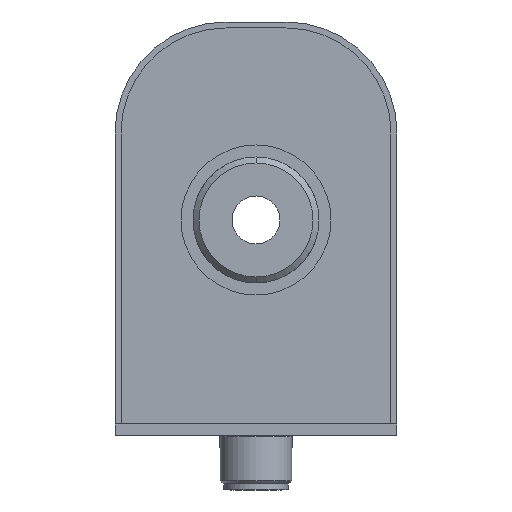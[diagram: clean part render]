
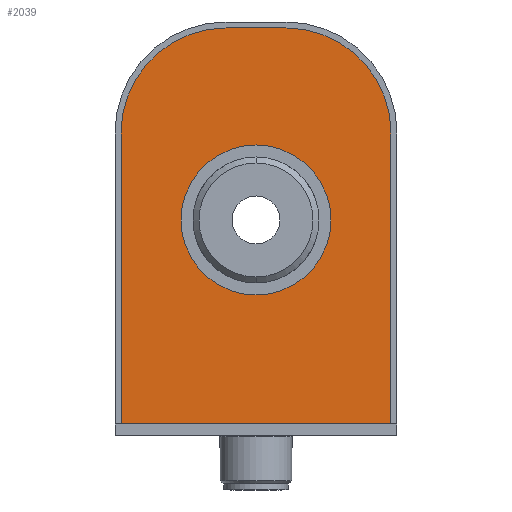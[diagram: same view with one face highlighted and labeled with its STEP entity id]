
A CAD part, left-side view. The second image highlights one B-rep face of the part: STEP entity #2039.
In plain terms, the highlighted planar face has unit normal (-1, 0, 0) as drawn and (0, 0, -1) by its records, which use the part's own axes.
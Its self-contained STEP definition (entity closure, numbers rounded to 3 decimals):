
#256 = ORIENTED_EDGE ( 'NONE', *, *, #10329, .F. ) ;
#454 = CIRCLE ( 'NONE', #10488, 17.5 ) ;
#655 = CIRCLE ( 'NONE', #4118, 17.5 ) ;
#981 = CARTESIAN_POINT ( 'NONE',  ( 27.5, 17.5, 0. ) ) ;
#1056 = VECTOR ( 'NONE', #13893, 1000. ) ;
#1190 = VECTOR ( 'NONE', #4458, 1000. ) ;
#1231 = VERTEX_POINT ( 'NONE', #2913 ) ;
#1350 = VERTEX_POINT ( 'NONE', #12054 ) ;
#1458 = CARTESIAN_POINT ( 'NONE',  ( 0., 17.5, 0. ) ) ;
#1464 = DIRECTION ( 'NONE',  ( 0., 0., 1. ) ) ;
#1582 = EDGE_CURVE ( 'NONE', #11477, #13532, #13164, .T. ) ;
#1717 = EDGE_CURVE ( 'NONE', #1350, #4396, #5385, .T. ) ;
#1816 = LINE ( 'NONE', #2041, #1056 ) ;
#1929 = DIRECTION ( 'NONE',  ( 1., 0., 0. ) ) ;
#2039 = ADVANCED_FACE ( 'NONE', ( #11118, #4438 ), #8533, .F. ) ;
#2041 = CARTESIAN_POINT ( 'NONE',  ( 27.5, 66., 0. ) ) ;
#2913 = CARTESIAN_POINT ( 'NONE',  ( -6.85, 32., 0. ) ) ;
#3817 = DIRECTION ( 'NONE',  ( 0., 0., 1. ) ) ;
#4082 = VECTOR ( 'NONE', #1929, 1000. ) ;
#4118 = AXIS2_PLACEMENT_3D ( 'NONE', #7000, #15259, #8160 ) ;
#4222 = EDGE_CURVE ( 'NONE', #13780, #12765, #13438, .T. ) ;
#4396 = VERTEX_POINT ( 'NONE', #11862 ) ;
#4438 = FACE_BOUND ( 'NONE', #7870, .T. ) ;
#4458 = DIRECTION ( 'NONE',  ( 0., -1., 0. ) ) ;
#4567 = DIRECTION ( 'NONE',  ( 0., 1., 0. ) ) ;
#5018 = VECTOR ( 'NONE', #4567, 1000. ) ;
#5098 = ORIENTED_EDGE ( 'NONE', *, *, #4222, .F. ) ;
#5275 = DIRECTION ( 'NONE',  ( 0., 0., 1. ) ) ;
#5385 = LINE ( 'NONE', #981, #5018 ) ;
#5421 = EDGE_CURVE ( 'NONE', #7763, #1231, #9280, .T. ) ;
#6516 = CARTESIAN_POINT ( 'NONE',  ( 10., 0., 0. ) ) ;
#6524 = CARTESIAN_POINT ( 'NONE',  ( 5., 32., 0. ) ) ;
#6763 = CARTESIAN_POINT ( 'NONE',  ( -17.5, 66., 0. ) ) ;
#6788 = CARTESIAN_POINT ( 'NONE',  ( 0., 0., 0. ) ) ;
#7000 = CARTESIAN_POINT ( 'NONE',  ( 10., 17.5, 0. ) ) ;
#7708 = DIRECTION ( 'NONE',  ( 1., 0., 0. ) ) ;
#7763 = VERTEX_POINT ( 'NONE', #10077 ) ;
#7870 = EDGE_LOOP ( 'NONE', ( #12427, #11555 ) ) ;
#8160 = DIRECTION ( 'NONE',  ( 1., 0., 0. ) ) ;
#8492 = ORIENTED_EDGE ( 'NONE', *, *, #8493, .F. ) ;
#8493 = EDGE_CURVE ( 'NONE', #4396, #13780, #1816, .T. ) ;
#8533 = PLANE ( 'NONE',  #11611 ) ;
#8538 = CARTESIAN_POINT ( 'NONE',  ( 0., 17.5, 0. ) ) ;
#9008 = CARTESIAN_POINT ( 'NONE',  ( 0., 0., 0. ) ) ;
#9222 = CARTESIAN_POINT ( 'NONE',  ( -17.5, 17.5, 0. ) ) ;
#9280 = CIRCLE ( 'NONE', #11101, 11.85 ) ;
#9296 = CARTESIAN_POINT ( 'NONE',  ( -17.5, 66., 0. ) ) ;
#9743 = DIRECTION ( 'NONE',  ( 1., 0., 0. ) ) ;
#10077 = CARTESIAN_POINT ( 'NONE',  ( 16.85, 32., 0. ) ) ;
#10084 = EDGE_CURVE ( 'NONE', #13532, #1350, #655, .T. ) ;
#10329 = EDGE_CURVE ( 'NONE', #12765, #11477, #454, .T. ) ;
#10488 = AXIS2_PLACEMENT_3D ( 'NONE', #8538, #1464, #9743 ) ;
#11047 = ORIENTED_EDGE ( 'NONE', *, *, #10084, .F. ) ;
#11101 = AXIS2_PLACEMENT_3D ( 'NONE', #12365, #5275, #13567 ) ;
#11118 = FACE_OUTER_BOUND ( 'NONE', #11971, .T. ) ;
#11274 = ORIENTED_EDGE ( 'NONE', *, *, #1717, .F. ) ;
#11477 = VERTEX_POINT ( 'NONE', #6788 ) ;
#11555 = ORIENTED_EDGE ( 'NONE', *, *, #5421, .T. ) ;
#11611 = AXIS2_PLACEMENT_3D ( 'NONE', #1458, #3817, #12119 ) ;
#11862 = CARTESIAN_POINT ( 'NONE',  ( 27.5, 66., 0. ) ) ;
#11971 = EDGE_LOOP ( 'NONE', ( #256, #5098, #8492, #11274, #11047, #12779 ) ) ;
#12054 = CARTESIAN_POINT ( 'NONE',  ( 27.5, 17.5, 0. ) ) ;
#12119 = DIRECTION ( 'NONE',  ( 1., 0., 0. ) ) ;
#12365 = CARTESIAN_POINT ( 'NONE',  ( 5., 32., 0. ) ) ;
#12427 = ORIENTED_EDGE ( 'NONE', *, *, #13201, .T. ) ;
#12765 = VERTEX_POINT ( 'NONE', #9222 ) ;
#12779 = ORIENTED_EDGE ( 'NONE', *, *, #1582, .F. ) ;
#13164 = LINE ( 'NONE', #9008, #4082 ) ;
#13201 = EDGE_CURVE ( 'NONE', #1231, #7763, #15091, .T. ) ;
#13438 = LINE ( 'NONE', #6763, #1190 ) ;
#13532 = VERTEX_POINT ( 'NONE', #6516 ) ;
#13567 = DIRECTION ( 'NONE',  ( 1., 0., 0. ) ) ;
#13780 = VERTEX_POINT ( 'NONE', #9296 ) ;
#13893 = DIRECTION ( 'NONE',  ( -1., 0., 0. ) ) ;
#14406 = AXIS2_PLACEMENT_3D ( 'NONE', #6524, #14812, #7708 ) ;
#14812 = DIRECTION ( 'NONE',  ( 0., 0., 1. ) ) ;
#15091 = CIRCLE ( 'NONE', #14406, 11.85 ) ;
#15259 = DIRECTION ( 'NONE',  ( 0., 0., 1. ) ) ;
